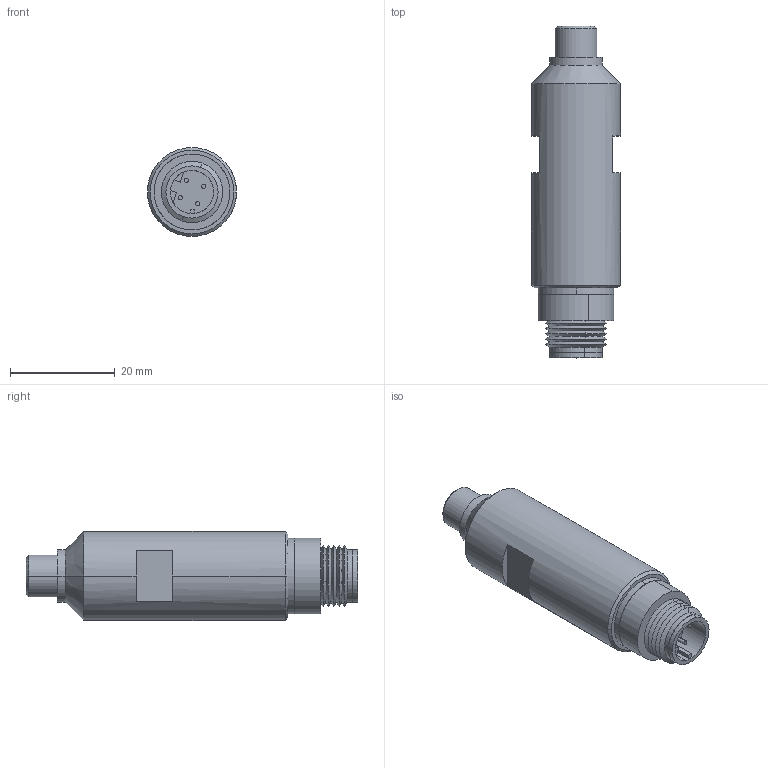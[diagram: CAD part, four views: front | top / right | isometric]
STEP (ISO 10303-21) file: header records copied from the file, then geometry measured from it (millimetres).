
FILE_DESCRIPTION((''),'2;1');
FILE_NAME('1655308_B_SW0001','2016-10-11T',('Alessandro.DANELUZZI'),(''),'PRO/ENGINEER BY PARAMETRIC TECHNOLOGY CORPORATION, 2015030','PRO/ENGINEER BY PARAMETRIC TECHNOLOGY CORPORATION, 2015030','');
FILE_SCHEMA(('CONFIG_CONTROL_DESIGN'));
Length unit declared in the file: millimetre
Products named in the file (1): 1655308_B_SW0001
Bounding box: 17 x 63.37 x 17 mm (x, y, z)
Surface area: 9479.4 mm2 (no closed solid volume)
Topology: 0 solids, 20 shells, 665 faces, 2059 edges, 1395 vertices
Faces by surface type: plane 409, cylinder 172, extrusion 36, cone 32, torus 14, bspline 2
Entity records: 24997 total; most frequent: CARTESIAN_POINT 6655, DIRECTION 3729, ORIENTED_EDGE 3652, EDGE_CURVE 2059, VECTOR 1479, LINE 1443, VERTEX_POINT 1395, AXIS2_PLACEMENT_3D 1125
